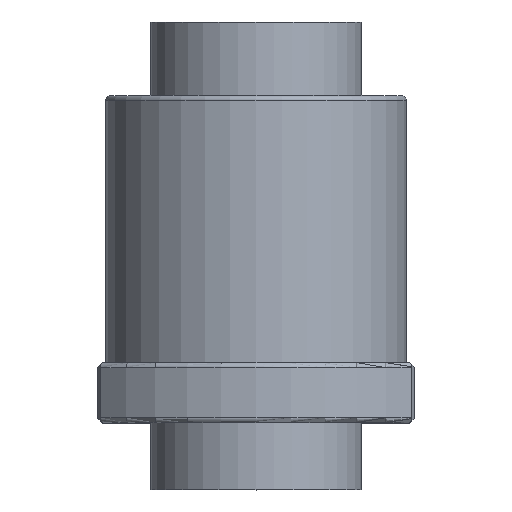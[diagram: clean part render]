
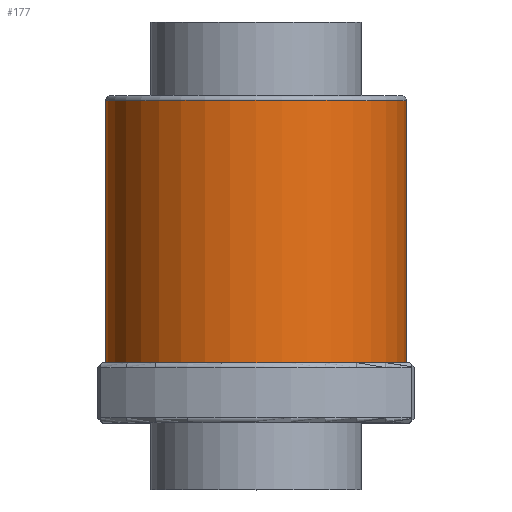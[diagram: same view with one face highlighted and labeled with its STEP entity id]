
A CAD part, top view. The second image highlights one B-rep face of the part: STEP entity #177.
In plain terms, the highlighted cylindrical face has radius 45 mm (diameter 90 mm), a full revolution.
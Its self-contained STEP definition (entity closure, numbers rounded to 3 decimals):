
#177=ADVANCED_FACE('',(#266,#267),#229,.T.);
#229=CYLINDRICAL_SURFACE('',#908,45.);
#266=FACE_BOUND('',#364,.T.);
#267=FACE_BOUND('',#365,.T.);
#364=EDGE_LOOP('',(#488));
#365=EDGE_LOOP('',(#489));
#488=ORIENTED_EDGE('',*,*,#755,.T.);
#489=ORIENTED_EDGE('',*,*,#738,.T.);
#659=VERTEX_POINT('',#1280);
#676=VERTEX_POINT('',#1319);
#738=EDGE_CURVE('',#659,#659,#831,.T.);
#755=EDGE_CURVE('',#676,#676,#842,.T.);
#831=CIRCLE('',#891,45.);
#842=CIRCLE('',#907,45.);
#891=AXIS2_PLACEMENT_3D('',#1279,#1032,#1033);
#907=AXIS2_PLACEMENT_3D('',#1318,#1070,#1071);
#908=AXIS2_PLACEMENT_3D('',#1320,#1072,#1073);
#1032=DIRECTION('',(0.,1.,0.));
#1033=DIRECTION('',(0.,0.,-1.));
#1070=DIRECTION('',(0.,-1.,0.));
#1071=DIRECTION('',(0.,0.,-1.));
#1072=DIRECTION('',(0.,1.,0.));
#1073=DIRECTION('',(0.,0.,1.));
#1279=CARTESIAN_POINT('',(0.,18.,0.));
#1280=CARTESIAN_POINT('',(0.,18.,-45.));
#1318=CARTESIAN_POINT('',(0.,96.5,0.));
#1319=CARTESIAN_POINT('',(0.,96.5,-45.));
#1320=CARTESIAN_POINT('',(0.,0.,0.));
